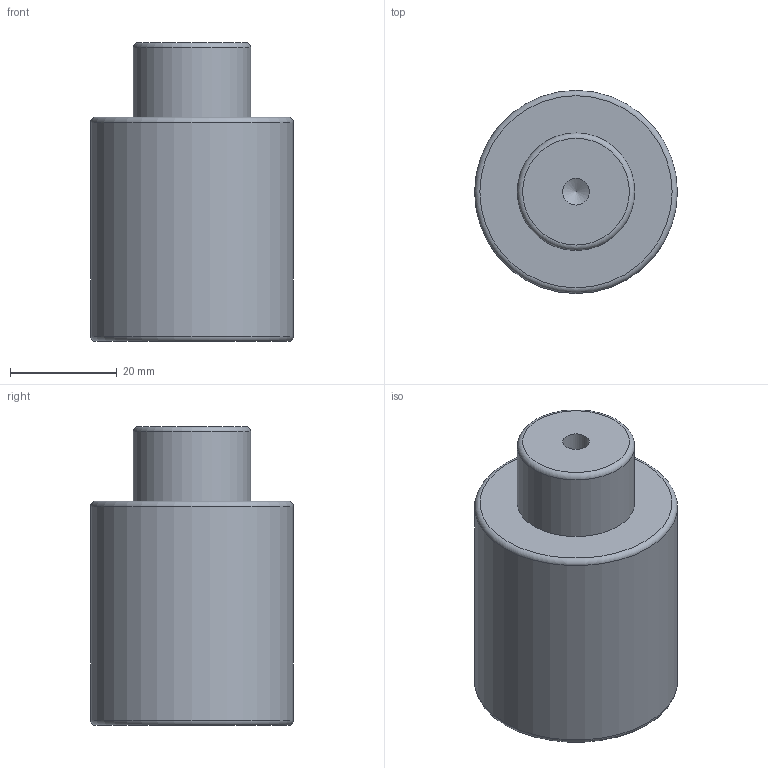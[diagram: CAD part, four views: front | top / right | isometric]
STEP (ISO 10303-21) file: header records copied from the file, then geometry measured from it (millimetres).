
FILE_DESCRIPTION(/* description */ (''),/* implementation_level */ '2;1');
FILE_NAME(/* name */ 'NV5-SMLX.38x13.stp',/* time_stamp */ '2018-08-31T16:08:36+02:00',/* author */ (''),/* organization */ (''),/* preprocessor_version */ 'ST-DEVELOPER v16',/* originating_system */ 'SIEMENS PLM Software NX 10.0',/* authorisation */ '');
FILE_SCHEMA (('AUTOMOTIVE_DESIGN { 1 0 10303 214 3 1 1 1 }'));
Length unit declared in the file: millimetre
Products named in the file (1): NV5-SMLX.38x13
Bounding box: 38 x 38 x 56 mm (x, y, z)
Volume: 52057.9 mm3; surface area: 8640.3 mm2
Topology: 1 solids, 1 shells, 12 faces, 24 edges, 15 vertices
Faces by surface type: cylinder 4, torus 3, plane 3, cone 2
Full cylindrical faces by diameter (mm): 5 x1, 6.8 x1, 22 x1, 38 x1
Entity records: 266 total; most frequent: DIRECTION 48, CARTESIAN_POINT 37, FACE_BOUND 24, AXIS2_PLACEMENT_3D 24, EDGE_LOOP 22, ORIENTED_EDGE 22, VERTEX_POINT 13, ADVANCED_FACE 12
